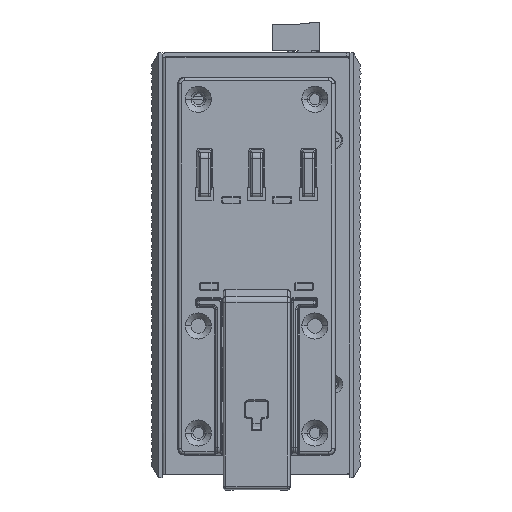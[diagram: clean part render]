
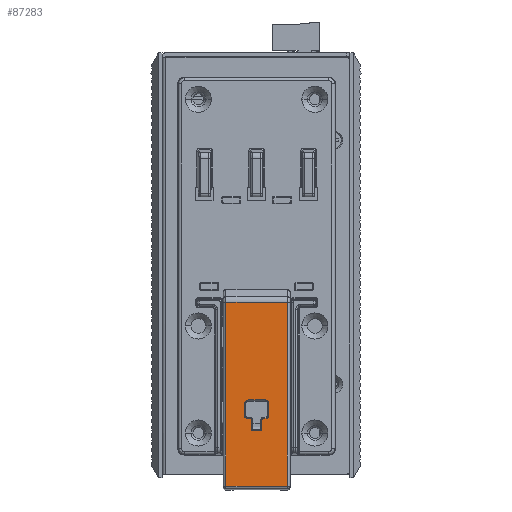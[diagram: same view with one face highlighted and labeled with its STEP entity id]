
A CAD part, left-side view. The second image highlights one B-rep face of the part: STEP entity #87283.
In plain terms, the highlighted planar face has unit normal (-1, 0, 0).
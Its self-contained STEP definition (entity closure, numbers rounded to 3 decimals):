
#81558=DIRECTION('',(0.,-1.,0.));
#81559=VECTOR('',#81558,19.5);
#81560=CARTESIAN_POINT('',(-59.,39.35,-14.857));
#81561=LINE('',#81560,#81559);
#81566=DIRECTION('',(0.,1.,0.));
#81567=VECTOR('',#81566,3.3);
#81568=CARTESIAN_POINT('',(-59.,27.95,
-55.68));
#81569=LINE('',#81568,#81567);
#81570=DIRECTION('',(0.,0.,-1.));
#81571=VECTOR('',#81570,3.354);
#81572=CARTESIAN_POINT('',(-59.,27.95,
-52.325));
#81573=LINE('',#81572,#81571);
#81574=CARTESIAN_POINT('',(-59.,27.325,
-51.7));
#81575=CARTESIAN_POINT('',(-59.,27.412,
-51.7));
#81576=CARTESIAN_POINT('',(-59.,27.572,
-51.734));
#81577=CARTESIAN_POINT('',(-59.,27.778,
-51.872));
#81578=CARTESIAN_POINT('',(-59.,27.916,
-52.078));
#81579=CARTESIAN_POINT('',(-59.,27.95,
-52.238));
#81580=CARTESIAN_POINT('',(-59.,27.95,
-52.325));
#81582=DIRECTION('',(0.,1.,0.));
#81583=VECTOR('',#81582,0.754);
#81584=CARTESIAN_POINT('',(-59.,26.571,
-51.7));
#81585=LINE('',#81584,#81583);
#81586=CARTESIAN_POINT('',(-59.,25.7,
-50.829));
#81587=CARTESIAN_POINT('',(-59.,25.7,
-50.949));
#81588=CARTESIAN_POINT('',(-59.,25.746,
-51.169));
#81589=CARTESIAN_POINT('',(-59.,25.937,
-51.46));
#81590=CARTESIAN_POINT('',(-59.,26.228,
-51.653));
#81591=CARTESIAN_POINT('',(-59.,26.45,
-51.7));
#81592=CARTESIAN_POINT('',(-59.,26.571,
-51.7));
#81594=DIRECTION('',(0.,0.,-1.));
#81595=VECTOR('',#81594,3.559);
#81596=CARTESIAN_POINT('',(-59.,25.7,
-47.27));
#81597=LINE('',#81596,#81595);
#81598=CARTESIAN_POINT('',(-59.,27.07,
-45.9));
#81599=CARTESIAN_POINT('',(-59.,26.879,
-45.9));
#81600=CARTESIAN_POINT('',(-59.,26.53,
-45.973));
#81601=CARTESIAN_POINT('',(-59.,26.073,
-46.277));
#81602=CARTESIAN_POINT('',(-59.,25.772,
-46.735));
#81603=CARTESIAN_POINT('',(-59.,25.7,
-47.081));
#81604=CARTESIAN_POINT('',(-59.,25.7,
-47.27));
#81606=DIRECTION('',(0.,-1.,0.));
#81607=VECTOR('',#81606,5.061);
#81608=CARTESIAN_POINT('',(-59.,32.13,
-45.9));
#81609=LINE('',#81608,#81607);
#81610=CARTESIAN_POINT('',(-59.,33.5,
-47.27));
#81611=CARTESIAN_POINT('',(-59.,33.5,
-47.081));
#81612=CARTESIAN_POINT('',(-59.,33.428,
-46.735));
#81613=CARTESIAN_POINT('',(-59.,33.127,
-46.277));
#81614=CARTESIAN_POINT('',(-59.,32.67,
-45.973));
#81615=CARTESIAN_POINT('',(-59.,32.321,
-45.9));
#81616=CARTESIAN_POINT('',(-59.,32.13,
-45.9));
#81618=DIRECTION('',(0.,0.,1.));
#81619=VECTOR('',#81618,3.559);
#81620=CARTESIAN_POINT('',(-59.,33.5,
-50.829));
#81621=LINE('',#81620,#81619);
#81622=CARTESIAN_POINT('',(-59.,32.629,
-51.7));
#81623=CARTESIAN_POINT('',(-59.,32.749,
-51.7));
#81624=CARTESIAN_POINT('',(-59.,32.969,
-51.654));
#81625=CARTESIAN_POINT('',(-59.,33.26,
-51.463));
#81626=CARTESIAN_POINT('',(-59.,33.453,
-51.172));
#81627=CARTESIAN_POINT('',(-59.,33.5,
-50.95));
#81628=CARTESIAN_POINT('',(-59.,33.5,
-50.829));
#81630=DIRECTION('',(0.,1.,0.));
#81631=VECTOR('',#81630,0.754);
#81632=CARTESIAN_POINT('',(-59.,31.875,
-51.7));
#81633=LINE('',#81632,#81631);
#81634=CARTESIAN_POINT('',(-59.,31.25,
-52.325));
#81635=CARTESIAN_POINT('',(-59.,31.25,
-52.238));
#81636=CARTESIAN_POINT('',(-59.,31.284,
-52.078));
#81637=CARTESIAN_POINT('',(-59.,31.421,
-51.872));
#81638=CARTESIAN_POINT('',(-59.,31.627,
-51.735));
#81639=CARTESIAN_POINT('',(-59.,31.787,
-51.7));
#81640=CARTESIAN_POINT('',(-59.,31.875,
-51.7));
#81642=DIRECTION('',(0.,0.,1.));
#81643=VECTOR('',#81642,3.354);
#81644=CARTESIAN_POINT('',(-59.,31.25,
-55.68));
#81645=LINE('',#81644,#81643);
#81650=DIRECTION('',(0.,0.,-1.));
#81651=VECTOR('',#81650,58.422);
#81652=CARTESIAN_POINT('',(-59.,19.85,-14.857));
#81653=LINE('',#81652,#81651);
#81669=DIRECTION('',(0.,1.,0.));
#81670=VECTOR('',#81669,19.5);
#81671=CARTESIAN_POINT('',(-59.,19.85,-73.279));
#81672=LINE('',#81671,#81670);
#81798=DIRECTION('',(0.,0.,1.));
#81799=VECTOR('',#81798,58.422);
#81800=CARTESIAN_POINT('',(-59.,39.35,-73.279));
#81801=LINE('',#81800,#81799);
#83407=CARTESIAN_POINT('',(-59.,19.85,-14.857));
#83408=VERTEX_POINT('',#83407);
#83415=CARTESIAN_POINT('',(-59.,19.85,-73.279));
#83416=VERTEX_POINT('',#83415);
#83425=CARTESIAN_POINT('',(-59.,39.35,-14.857));
#83426=VERTEX_POINT('',#83425);
#83431=CARTESIAN_POINT('',(-59.,39.35,-73.279));
#83432=VERTEX_POINT('',#83431);
#83447=CARTESIAN_POINT('',(-59.,27.95,
-55.68));
#83448=CARTESIAN_POINT('',(-59.,31.25,
-55.68));
#83449=VERTEX_POINT('',#83447);
#83450=VERTEX_POINT('',#83448);
#83461=CARTESIAN_POINT('',(-59.,31.25,
-52.325));
#83462=VERTEX_POINT('',#83461);
#83463=CARTESIAN_POINT('',(-59.,27.95,
-52.325));
#83464=VERTEX_POINT('',#83463);
#83479=VERTEX_POINT('',#81640);
#83480=VERTEX_POINT('',#81574);
#83496=CARTESIAN_POINT('',(-59.,32.629,
-51.7));
#83497=VERTEX_POINT('',#83496);
#83500=CARTESIAN_POINT('',(-59.,26.571,
-51.7));
#83501=VERTEX_POINT('',#83500);
#83508=VERTEX_POINT('',#81628);
#83511=VERTEX_POINT('',#81586);
#83519=CARTESIAN_POINT('',(-59.,33.5,
-47.27));
#83520=VERTEX_POINT('',#83519);
#83523=CARTESIAN_POINT('',(-59.,25.7,
-47.27));
#83524=VERTEX_POINT('',#83523);
#83536=VERTEX_POINT('',#81616);
#83541=VERTEX_POINT('',#81598);
#87239=CARTESIAN_POINT('',(-59.,18.95,-74.5));
#87240=DIRECTION('',(-1.,0.,0.));
#87241=DIRECTION('',(0.,0.,1.));
#87242=AXIS2_PLACEMENT_3D('',#87239,#87240,#87241);
#87243=PLANE('',#87242);
#87245=ORIENTED_EDGE('',*,*,#87244,.T.);
#87247=ORIENTED_EDGE('',*,*,#87246,.T.);
#87249=ORIENTED_EDGE('',*,*,#87248,.T.);
#87250=ORIENTED_EDGE('',*,*,#87229,.T.);
#87251=EDGE_LOOP('',(#87245,#87247,#87249,#87250));
#87252=FACE_OUTER_BOUND('',#87251,.F.);
#87254=ORIENTED_EDGE('',*,*,#87253,.F.);
#87256=ORIENTED_EDGE('',*,*,#87255,.F.);
#87258=ORIENTED_EDGE('',*,*,#87257,.F.);
#87260=ORIENTED_EDGE('',*,*,#87259,.F.);
#87262=ORIENTED_EDGE('',*,*,#87261,.F.);
#87264=ORIENTED_EDGE('',*,*,#87263,.F.);
#87266=ORIENTED_EDGE('',*,*,#87265,.F.);
#87268=ORIENTED_EDGE('',*,*,#87267,.F.);
#87270=ORIENTED_EDGE('',*,*,#87269,.F.);
#87272=ORIENTED_EDGE('',*,*,#87271,.F.);
#87274=ORIENTED_EDGE('',*,*,#87273,.F.);
#87276=ORIENTED_EDGE('',*,*,#87275,.F.);
#87278=ORIENTED_EDGE('',*,*,#87277,.F.);
#87280=ORIENTED_EDGE('',*,*,#87279,.F.);
#87281=EDGE_LOOP('',(#87254,#87256,#87258,#87260,#87262,#87264,#87266,#87268,
#87270,#87272,#87274,#87276,#87278,#87280));
#87282=FACE_BOUND('',#87281,.F.);
#87283=ADVANCED_FACE('',(#87252,#87282),#87243,.T.);
#81581=B_SPLINE_CURVE_WITH_KNOTS('',3,(#81574,#81575,#81576,#81577,#81578,
#81579,#81580),.UNSPECIFIED.,.F.,.F.,(4,1,1,1,4),(0.,0.25,0.5,0.75,
1.),.UNSPECIFIED.);
#81593=B_SPLINE_CURVE_WITH_KNOTS('',3,(#81586,#81587,#81588,#81589,#81590,
#81591,#81592),.UNSPECIFIED.,.F.,.F.,(4,1,1,1,4),(0.,0.25,0.5,0.75,
1.),.UNSPECIFIED.);
#81605=B_SPLINE_CURVE_WITH_KNOTS('',3,(#81598,#81599,#81600,#81601,#81602,
#81603,#81604),.UNSPECIFIED.,.F.,.F.,(4,1,1,1,4),(0.,0.25,0.5,0.75,
1.),.UNSPECIFIED.);
#81617=B_SPLINE_CURVE_WITH_KNOTS('',3,(#81610,#81611,#81612,#81613,#81614,
#81615,#81616),.UNSPECIFIED.,.F.,.F.,(4,1,1,1,4),(0.,0.25,0.5,0.75,
1.),.UNSPECIFIED.);
#81629=B_SPLINE_CURVE_WITH_KNOTS('',3,(#81622,#81623,#81624,#81625,#81626,
#81627,#81628),.UNSPECIFIED.,.F.,.F.,(4,1,1,1,4),(0.,0.25,0.5,0.75,
1.),.UNSPECIFIED.);
#81641=B_SPLINE_CURVE_WITH_KNOTS('',3,(#81634,#81635,#81636,#81637,#81638,
#81639,#81640),.UNSPECIFIED.,.F.,.F.,(4,1,1,1,4),(0.,0.25,0.5,0.75,
1.),.UNSPECIFIED.);
#87229=EDGE_CURVE('',#83426,#83408,#81561,.T.);
#87244=EDGE_CURVE('',#83408,#83416,#81653,.T.);
#87246=EDGE_CURVE('',#83416,#83432,#81672,.T.);
#87248=EDGE_CURVE('',#83432,#83426,#81801,.T.);
#87253=EDGE_CURVE('',#83449,#83450,#81569,.T.);
#87255=EDGE_CURVE('',#83464,#83449,#81573,.T.);
#87257=EDGE_CURVE('',#83480,#83464,#81581,.T.);
#87259=EDGE_CURVE('',#83501,#83480,#81585,.T.);
#87261=EDGE_CURVE('',#83511,#83501,#81593,.T.);
#87263=EDGE_CURVE('',#83524,#83511,#81597,.T.);
#87265=EDGE_CURVE('',#83541,#83524,#81605,.T.);
#87267=EDGE_CURVE('',#83536,#83541,#81609,.T.);
#87269=EDGE_CURVE('',#83520,#83536,#81617,.T.);
#87271=EDGE_CURVE('',#83508,#83520,#81621,.T.);
#87273=EDGE_CURVE('',#83497,#83508,#81629,.T.);
#87275=EDGE_CURVE('',#83479,#83497,#81633,.T.);
#87277=EDGE_CURVE('',#83462,#83479,#81641,.T.);
#87279=EDGE_CURVE('',#83450,#83462,#81645,.T.);
